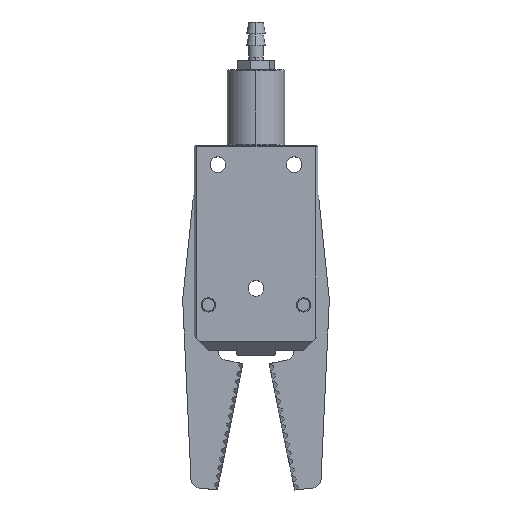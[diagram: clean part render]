
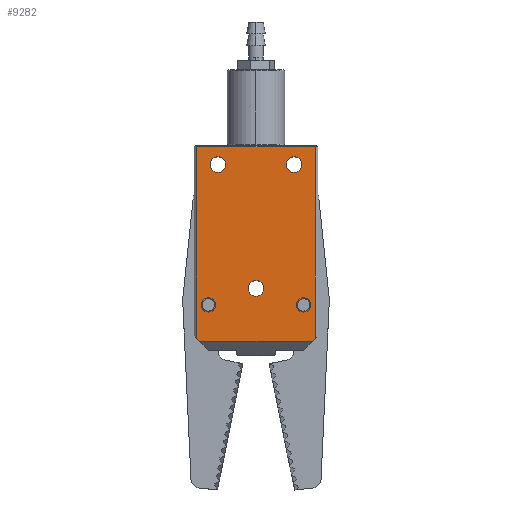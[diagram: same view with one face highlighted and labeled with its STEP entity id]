
A CAD part, top view. The second image highlights one B-rep face of the part: STEP entity #9282.
In plain terms, the highlighted planar face has unit normal (0, 0, 1).
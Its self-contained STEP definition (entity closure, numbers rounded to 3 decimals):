
#227 = ORIENTED_EDGE ( 'NONE', *, *, #13033, .F. ) ;
#271 = CARTESIAN_POINT ( 'NONE',  ( 103.481, -19.921, 66.7 ) ) ;
#498 = VERTEX_POINT ( 'NONE', #13990 ) ;
#605 = VECTOR ( 'NONE', #3589, 1000. ) ;
#679 = EDGE_CURVE ( 'NONE', #10394, #8769, #8055, .T. ) ;
#710 = CARTESIAN_POINT ( 'NONE',  ( 78.481, 20.379, 66.7 ) ) ;
#770 = CARTESIAN_POINT ( 'NONE',  ( 100.981, -14.421, 66.7 ) ) ;
#965 = EDGE_LOOP ( 'NONE', ( #6817, #12399 ) ) ;
#1098 = AXIS2_PLACEMENT_3D ( 'NONE', #3730, #12034, #4920 ) ;
#1726 = DIRECTION ( 'NONE',  ( 0.707, -0.707, 0. ) ) ;
#1826 = EDGE_LOOP ( 'NONE', ( #3932, #15153, #13656, #15253, #6245, #6379 ) ) ;
#1873 = VERTEX_POINT ( 'NONE', #8109 ) ;
#1908 = LINE ( 'NONE', #10275, #5095 ) ;
#2003 = DIRECTION ( 'NONE',  ( 0., 0., 1. ) ) ;
#2038 = LINE ( 'NONE', #5072, #8012 ) ;
#2279 = FACE_BOUND ( 'NONE', #9821, .T. ) ;
#2415 = DIRECTION ( 'NONE',  ( 0., 0., 1. ) ) ;
#2525 = VERTEX_POINT ( 'NONE', #8018 ) ;
#2570 = ORIENTED_EDGE ( 'NONE', *, *, #679, .F. ) ;
#2621 = EDGE_CURVE ( 'NONE', #4483, #6878, #3448, .T. ) ;
#2667 = CIRCLE ( 'NONE', #11184, 1.5 ) ;
#2757 = VERTEX_POINT ( 'NONE', #14224 ) ;
#2793 = DIRECTION ( 'NONE',  ( -1., 0., 0. ) ) ;
#2852 = CARTESIAN_POINT ( 'NONE',  ( 98.981, 18.229, 66.7 ) ) ;
#2884 = AXIS2_PLACEMENT_3D ( 'NONE', #3293, #11640, #4479 ) ;
#2920 = DIRECTION ( 'NONE',  ( 1., 0., 0. ) ) ;
#2995 = CARTESIAN_POINT ( 'NONE',  ( 98.981, 16.579, 66.7 ) ) ;
#3062 = ORIENTED_EDGE ( 'NONE', *, *, #14923, .F. ) ;
#3188 = CARTESIAN_POINT ( 'NONE',  ( 103.481, -0.096, 66.7 ) ) ;
#3258 = EDGE_CURVE ( 'NONE', #2525, #7961, #13198, .T. ) ;
#3293 = CARTESIAN_POINT ( 'NONE',  ( 90.981, -9.421, 66.7 ) ) ;
#3328 = CARTESIAN_POINT ( 'NONE',  ( 82.981, 16.579, 66.7 ) ) ;
#3448 = CIRCLE ( 'NONE', #15077, 1.5 ) ;
#3562 = EDGE_CURVE ( 'NONE', #8769, #10394, #13166, .T. ) ;
#3589 = DIRECTION ( 'NONE',  ( 0., 1., 0. ) ) ;
#3628 = ORIENTED_EDGE ( 'NONE', *, *, #3562, .F. ) ;
#3730 = CARTESIAN_POINT ( 'NONE',  ( 100.981, -12.921, 66.7 ) ) ;
#3903 = ORIENTED_EDGE ( 'NONE', *, *, #2621, .F. ) ;
#3928 = VERTEX_POINT ( 'NONE', #770 ) ;
#3932 = ORIENTED_EDGE ( 'NONE', *, *, #12862, .T. ) ;
#3980 = CARTESIAN_POINT ( 'NONE',  ( 103.481, -20.571, 66.7 ) ) ;
#4018 = EDGE_CURVE ( 'NONE', #7961, #2525, #12411, .T. ) ;
#4127 = LINE ( 'NONE', #7107, #605 ) ;
#4144 = CARTESIAN_POINT ( 'NONE',  ( 90.981, 20.379, 66.7 ) ) ;
#4176 = DIRECTION ( 'NONE',  ( 0., 1., 0. ) ) ;
#4230 = CARTESIAN_POINT ( 'NONE',  ( 80.981, -14.421, 66.7 ) ) ;
#4288 = DIRECTION ( 'NONE',  ( 0.707, 0.707, 0. ) ) ;
#4479 = DIRECTION ( 'NONE',  ( 0., 1., 0. ) ) ;
#4483 = VERTEX_POINT ( 'NONE', #4230 ) ;
#4498 = CARTESIAN_POINT ( 'NONE',  ( 80.981, -11.421, 66.7 ) ) ;
#4513 = DIRECTION ( 'NONE',  ( 0., 1., 0. ) ) ;
#4548 = ORIENTED_EDGE ( 'NONE', *, *, #13430, .F. ) ;
#4746 = DIRECTION ( 'NONE',  ( 0., 0., 1. ) ) ;
#4820 = VECTOR ( 'NONE', #11487, 1000. ) ;
#4920 = DIRECTION ( 'NONE',  ( 0., 1., 0. ) ) ;
#5072 = CARTESIAN_POINT ( 'NONE',  ( 90.981, -20.571, 66.7 ) ) ;
#5095 = VECTOR ( 'NONE', #4288, 1000. ) ;
#5198 = DIRECTION ( 'NONE',  ( -1., 0., 0. ) ) ;
#5264 = EDGE_CURVE ( 'NONE', #6656, #11725, #4127, .T. ) ;
#5435 = FACE_OUTER_BOUND ( 'NONE', #1826, .T. ) ;
#5448 = CARTESIAN_POINT ( 'NONE',  ( 80.981, -12.921, 66.7 ) ) ;
#5685 = CIRCLE ( 'NONE', #10543, 1.65 ) ;
#5781 = DIRECTION ( 'NONE',  ( 0., 0., 1. ) ) ;
#5933 = EDGE_CURVE ( 'NONE', #2757, #10987, #2038, .T. ) ;
#6060 = CARTESIAN_POINT ( 'NONE',  ( 90.981, -7.771, 66.7 ) ) ;
#6207 = EDGE_CURVE ( 'NONE', #498, #11338, #14249, .T. ) ;
#6245 = ORIENTED_EDGE ( 'NONE', *, *, #11499, .F. ) ;
#6305 = CIRCLE ( 'NONE', #7224, 1.5 ) ;
#6379 = ORIENTED_EDGE ( 'NONE', *, *, #5264, .F. ) ;
#6494 = DIRECTION ( 'NONE',  ( 0., 0., 1. ) ) ;
#6656 = VERTEX_POINT ( 'NONE', #8770 ) ;
#6657 = DIRECTION ( 'NONE',  ( 0., 1., 0. ) ) ;
#6817 = ORIENTED_EDGE ( 'NONE', *, *, #4018, .F. ) ;
#6878 = VERTEX_POINT ( 'NONE', #4498 ) ;
#7100 = EDGE_LOOP ( 'NONE', ( #227, #10650 ) ) ;
#7107 = CARTESIAN_POINT ( 'NONE',  ( 78.481, -0.096, 66.7 ) ) ;
#7126 = CARTESIAN_POINT ( 'NONE',  ( 90.981, -11.071, 66.7 ) ) ;
#7186 = CIRCLE ( 'NONE', #1098, 1.5 ) ;
#7224 = AXIS2_PLACEMENT_3D ( 'NONE', #5448, #13711, #6657 ) ;
#7961 = VERTEX_POINT ( 'NONE', #11934 ) ;
#8012 = VECTOR ( 'NONE', #2793, 1000. ) ;
#8018 = CARTESIAN_POINT ( 'NONE',  ( 82.981, 14.929, 66.7 ) ) ;
#8055 = CIRCLE ( 'NONE', #8441, 1.65 ) ;
#8109 = CARTESIAN_POINT ( 'NONE',  ( 100.981, -11.421, 66.7 ) ) ;
#8195 = AXIS2_PLACEMENT_3D ( 'NONE', #3980, #12297, #5198 ) ;
#8441 = AXIS2_PLACEMENT_3D ( 'NONE', #2995, #11349, #4176 ) ;
#8550 = VERTEX_POINT ( 'NONE', #6060 ) ;
#8612 = FACE_BOUND ( 'NONE', #7100, .T. ) ;
#8769 = VERTEX_POINT ( 'NONE', #8777 ) ;
#8770 = CARTESIAN_POINT ( 'NONE',  ( 78.481, -19.921, 66.7 ) ) ;
#8777 = CARTESIAN_POINT ( 'NONE',  ( 98.981, 14.929, 66.7 ) ) ;
#8820 = CARTESIAN_POINT ( 'NONE',  ( 79.481, -20.921, 66.7 ) ) ;
#8929 = EDGE_CURVE ( 'NONE', #2757, #11338, #1908, .T. ) ;
#9041 = LINE ( 'NONE', #8820, #12181 ) ;
#9053 = EDGE_CURVE ( 'NONE', #3928, #1873, #2667, .T. ) ;
#9159 = CARTESIAN_POINT ( 'NONE',  ( 82.981, 16.579, 66.7 ) ) ;
#9282 = ADVANCED_FACE ( 'NONE', ( #15215, #14832, #2279, #8612, #14474, #5435 ), #13420, .F. ) ;
#9573 = CARTESIAN_POINT ( 'NONE',  ( 98.981, 16.579, 66.7 ) ) ;
#9821 = EDGE_LOOP ( 'NONE', ( #2570, #3628 ) ) ;
#10275 = CARTESIAN_POINT ( 'NONE',  ( 102.481, -20.921, 66.7 ) ) ;
#10365 = DIRECTION ( 'NONE',  ( 0., 1., 0. ) ) ;
#10394 = VERTEX_POINT ( 'NONE', #2852 ) ;
#10411 = CARTESIAN_POINT ( 'NONE',  ( 79.131, -20.571, 66.7 ) ) ;
#10543 = AXIS2_PLACEMENT_3D ( 'NONE', #13546, #6494, #14703 ) ;
#10650 = ORIENTED_EDGE ( 'NONE', *, *, #9053, .F. ) ;
#10768 = DIRECTION ( 'NONE',  ( 0., 1., 0. ) ) ;
#10987 = VERTEX_POINT ( 'NONE', #10411 ) ;
#11128 = EDGE_LOOP ( 'NONE', ( #13461, #3903 ) ) ;
#11184 = AXIS2_PLACEMENT_3D ( 'NONE', #11868, #4746, #13053 ) ;
#11338 = VERTEX_POINT ( 'NONE', #271 ) ;
#11349 = DIRECTION ( 'NONE',  ( 0., 0., 1. ) ) ;
#11487 = DIRECTION ( 'NONE',  ( 0., -1., 0. ) ) ;
#11499 = EDGE_CURVE ( 'NONE', #11725, #498, #12341, .T. ) ;
#11640 = DIRECTION ( 'NONE',  ( 0., 0., 1. ) ) ;
#11666 = DIRECTION ( 'NONE',  ( 0., 0., 1. ) ) ;
#11725 = VERTEX_POINT ( 'NONE', #710 ) ;
#11868 = CARTESIAN_POINT ( 'NONE',  ( 100.981, -12.921, 66.7 ) ) ;
#11934 = CARTESIAN_POINT ( 'NONE',  ( 82.981, 18.229, 66.7 ) ) ;
#11989 = VECTOR ( 'NONE', #2920, 1000. ) ;
#12034 = DIRECTION ( 'NONE',  ( 0., 0., 1. ) ) ;
#12181 = VECTOR ( 'NONE', #1726, 1000. ) ;
#12297 = DIRECTION ( 'NONE',  ( 0., 0., -1. ) ) ;
#12341 = LINE ( 'NONE', #4144, #11989 ) ;
#12399 = ORIENTED_EDGE ( 'NONE', *, *, #3258, .F. ) ;
#12411 = CIRCLE ( 'NONE', #13936, 1.65 ) ;
#12862 = EDGE_CURVE ( 'NONE', #6656, #10987, #9041, .T. ) ;
#12882 = CARTESIAN_POINT ( 'NONE',  ( 80.981, -12.921, 66.7 ) ) ;
#13033 = EDGE_CURVE ( 'NONE', #1873, #3928, #7186, .T. ) ;
#13053 = DIRECTION ( 'NONE',  ( 0., 1., 0. ) ) ;
#13166 = CIRCLE ( 'NONE', #14514, 1.65 ) ;
#13192 = EDGE_LOOP ( 'NONE', ( #4548, #3062 ) ) ;
#13198 = CIRCLE ( 'NONE', #14611, 1.65 ) ;
#13420 = PLANE ( 'NONE',  #8195 ) ;
#13430 = EDGE_CURVE ( 'NONE', #8550, #15210, #14485, .T. ) ;
#13461 = ORIENTED_EDGE ( 'NONE', *, *, #14352, .F. ) ;
#13546 = CARTESIAN_POINT ( 'NONE',  ( 90.981, -9.421, 66.7 ) ) ;
#13656 = ORIENTED_EDGE ( 'NONE', *, *, #8929, .T. ) ;
#13711 = DIRECTION ( 'NONE',  ( 0., 0., 1. ) ) ;
#13936 = AXIS2_PLACEMENT_3D ( 'NONE', #3328, #11666, #4513 ) ;
#13990 = CARTESIAN_POINT ( 'NONE',  ( 103.481, 20.379, 66.7 ) ) ;
#14020 = DIRECTION ( 'NONE',  ( 0., 1., 0. ) ) ;
#14224 = CARTESIAN_POINT ( 'NONE',  ( 102.831, -20.571, 66.7 ) ) ;
#14249 = LINE ( 'NONE', #3188, #4820 ) ;
#14352 = EDGE_CURVE ( 'NONE', #6878, #4483, #6305, .T. ) ;
#14474 = FACE_BOUND ( 'NONE', #11128, .T. ) ;
#14485 = CIRCLE ( 'NONE', #2884, 1.65 ) ;
#14514 = AXIS2_PLACEMENT_3D ( 'NONE', #9573, #2415, #10768 ) ;
#14611 = AXIS2_PLACEMENT_3D ( 'NONE', #9159, #2003, #10365 ) ;
#14703 = DIRECTION ( 'NONE',  ( 0., 1., 0. ) ) ;
#14832 = FACE_BOUND ( 'NONE', #965, .T. ) ;
#14923 = EDGE_CURVE ( 'NONE', #15210, #8550, #5685, .T. ) ;
#15077 = AXIS2_PLACEMENT_3D ( 'NONE', #12882, #5781, #14020 ) ;
#15153 = ORIENTED_EDGE ( 'NONE', *, *, #5933, .F. ) ;
#15210 = VERTEX_POINT ( 'NONE', #7126 ) ;
#15215 = FACE_BOUND ( 'NONE', #13192, .T. ) ;
#15253 = ORIENTED_EDGE ( 'NONE', *, *, #6207, .F. ) ;
